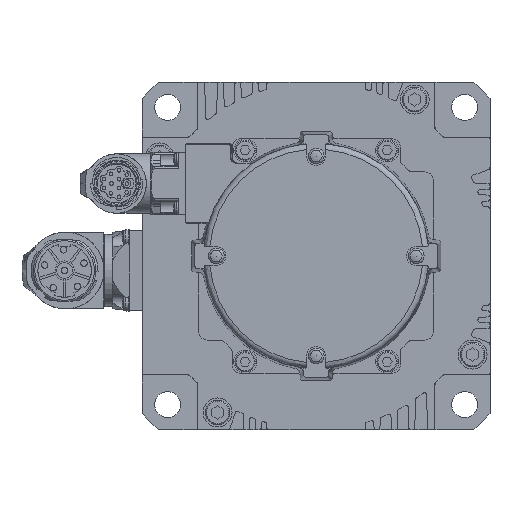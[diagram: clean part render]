
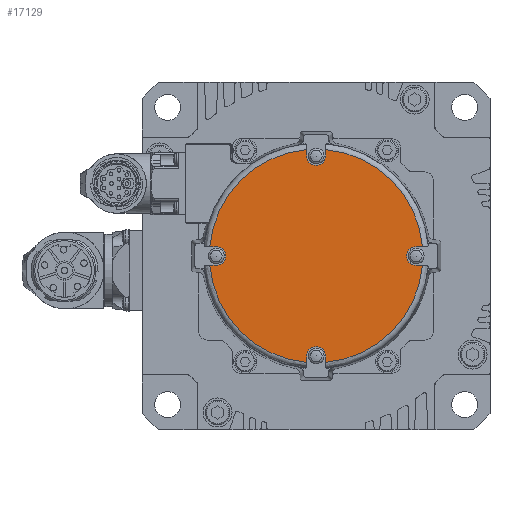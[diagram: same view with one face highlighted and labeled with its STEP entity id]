
A CAD part, left-side view. The second image highlights one B-rep face of the part: STEP entity #17129.
In plain terms, the highlighted planar face has unit normal (-1, 0, 0).
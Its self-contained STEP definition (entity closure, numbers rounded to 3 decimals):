
#729=LINE('',#25801,#2182);
#730=LINE('',#25805,#2183);
#731=LINE('',#25809,#2184);
#732=LINE('',#25813,#2185);
#733=LINE('',#25817,#2186);
#734=LINE('',#25821,#2187);
#735=LINE('',#25825,#2188);
#736=LINE('',#25829,#2189);
#2182=VECTOR('',#20240,1000.);
#2183=VECTOR('',#20243,1000.);
#2184=VECTOR('',#20246,1000.);
#2185=VECTOR('',#20249,1000.);
#2186=VECTOR('',#20252,1000.);
#2187=VECTOR('',#20255,1000.);
#2188=VECTOR('',#20258,1000.);
#2189=VECTOR('',#20261,1000.);
#3662=ORIENTED_EDGE('',*,*,#8856,.T.);
#3663=ORIENTED_EDGE('',*,*,#8857,.F.);
#3664=ORIENTED_EDGE('',*,*,#8858,.F.);
#3665=ORIENTED_EDGE('',*,*,#8859,.F.);
#3666=ORIENTED_EDGE('',*,*,#8860,.T.);
#3667=ORIENTED_EDGE('',*,*,#8861,.F.);
#3668=ORIENTED_EDGE('',*,*,#8862,.F.);
#3669=ORIENTED_EDGE('',*,*,#8863,.F.);
#3670=ORIENTED_EDGE('',*,*,#8864,.T.);
#3671=ORIENTED_EDGE('',*,*,#8865,.F.);
#3672=ORIENTED_EDGE('',*,*,#8866,.F.);
#3673=ORIENTED_EDGE('',*,*,#8867,.F.);
#3674=ORIENTED_EDGE('',*,*,#8868,.T.);
#3675=ORIENTED_EDGE('',*,*,#8869,.F.);
#3676=ORIENTED_EDGE('',*,*,#8870,.F.);
#3677=ORIENTED_EDGE('',*,*,#8871,.F.);
#8856=EDGE_CURVE('',#11453,#11454,#13206,.T.);
#8857=EDGE_CURVE('',#11455,#11454,#729,.T.);
#8858=EDGE_CURVE('',#11456,#11455,#13207,.T.);
#8859=EDGE_CURVE('',#11457,#11456,#730,.T.);
#8860=EDGE_CURVE('',#11457,#11458,#13208,.T.);
#8861=EDGE_CURVE('',#11459,#11458,#731,.T.);
#8862=EDGE_CURVE('',#11460,#11459,#13209,.T.);
#8863=EDGE_CURVE('',#11461,#11460,#732,.T.);
#8864=EDGE_CURVE('',#11461,#11462,#13210,.T.);
#8865=EDGE_CURVE('',#11463,#11462,#733,.T.);
#8866=EDGE_CURVE('',#11464,#11463,#13211,.T.);
#8867=EDGE_CURVE('',#11465,#11464,#734,.T.);
#8868=EDGE_CURVE('',#11465,#11466,#13212,.T.);
#8869=EDGE_CURVE('',#11467,#11466,#735,.T.);
#8870=EDGE_CURVE('',#11468,#11467,#13213,.T.);
#8871=EDGE_CURVE('',#11453,#11468,#736,.T.);
#11453=VERTEX_POINT('',#25799);
#11454=VERTEX_POINT('',#25800);
#11455=VERTEX_POINT('',#25802);
#11456=VERTEX_POINT('',#25804);
#11457=VERTEX_POINT('',#25806);
#11458=VERTEX_POINT('',#25808);
#11459=VERTEX_POINT('',#25810);
#11460=VERTEX_POINT('',#25812);
#11461=VERTEX_POINT('',#25814);
#11462=VERTEX_POINT('',#25816);
#11463=VERTEX_POINT('',#25818);
#11464=VERTEX_POINT('',#25820);
#11465=VERTEX_POINT('',#25822);
#11466=VERTEX_POINT('',#25824);
#11467=VERTEX_POINT('',#25826);
#11468=VERTEX_POINT('',#25828);
#13206=CIRCLE('',#18193,3.25);
#13207=CIRCLE('',#18194,36.85);
#13208=CIRCLE('',#18195,3.25);
#13209=CIRCLE('',#18196,36.85);
#13210=CIRCLE('',#18197,3.25);
#13211=CIRCLE('',#18198,36.85);
#13212=CIRCLE('',#18199,3.25);
#13213=CIRCLE('',#18200,36.85);
#14178=EDGE_LOOP('',(#3662,#3663,#3664,#3665,#3666,#3667,#3668,#3669,#3670,
#3671,#3672,#3673,#3674,#3675,#3676,#3677));
#15398=FACE_BOUND('',#14178,.T.);
#16612=PLANE('',#18192);
#17129=ADVANCED_FACE('',(#15398),#16612,.F.);
#18192=AXIS2_PLACEMENT_3D('',#25797,#20236,#20237);
#18193=AXIS2_PLACEMENT_3D('',#25798,#20238,#20239);
#18194=AXIS2_PLACEMENT_3D('',#25803,#20241,#20242);
#18195=AXIS2_PLACEMENT_3D('',#25807,#20244,#20245);
#18196=AXIS2_PLACEMENT_3D('',#25811,#20247,#20248);
#18197=AXIS2_PLACEMENT_3D('',#25815,#20250,#20251);
#18198=AXIS2_PLACEMENT_3D('',#25819,#20253,#20254);
#18199=AXIS2_PLACEMENT_3D('',#25823,#20256,#20257);
#18200=AXIS2_PLACEMENT_3D('',#25827,#20259,#20260);
#20236=DIRECTION('',(1.,0.,0.));
#20237=DIRECTION('',(0.,0.,-1.));
#20238=DIRECTION('',(1.,0.,0.));
#20239=DIRECTION('',(0.,0.,-1.));
#20240=DIRECTION('',(0.,-1.,0.));
#20241=DIRECTION('',(1.,0.,0.));
#20242=DIRECTION('',(0.,0.,-1.));
#20243=DIRECTION('',(0.,0.,-1.));
#20244=DIRECTION('',(1.,0.,0.));
#20245=DIRECTION('',(0.,0.,-1.));
#20246=DIRECTION('',(0.,0.,1.));
#20247=DIRECTION('',(1.,0.,0.));
#20248=DIRECTION('',(0.,0.,-1.));
#20249=DIRECTION('',(0.,-1.,0.));
#20250=DIRECTION('',(1.,0.,0.));
#20251=DIRECTION('',(0.,0.,-1.));
#20252=DIRECTION('',(0.,1.,0.));
#20253=DIRECTION('',(1.,0.,0.));
#20254=DIRECTION('',(0.,0.,-1.));
#20255=DIRECTION('',(0.,0.,1.));
#20256=DIRECTION('',(1.,0.,0.));
#20257=DIRECTION('',(0.,0.,-1.));
#20258=DIRECTION('',(0.,0.,-1.));
#20259=DIRECTION('',(1.,0.,0.));
#20260=DIRECTION('',(0.,0.,-1.));
#20261=DIRECTION('',(0.,1.,0.));
#25797=CARTESIAN_POINT('',(-188.,0.,0.));
#25798=CARTESIAN_POINT('',(-188.,34.5,0.));
#25799=CARTESIAN_POINT('',(-188.,34.5,3.25));
#25800=CARTESIAN_POINT('',(-188.,34.5,-3.25));
#25801=CARTESIAN_POINT('',(-188.,38.166,-3.25));
#25802=CARTESIAN_POINT('',(-188.,36.706,-3.25));
#25803=CARTESIAN_POINT('',(-188.,0.,0.));
#25804=CARTESIAN_POINT('',(-188.,3.25,-36.706));
#25805=CARTESIAN_POINT('',(-188.,3.25,-34.5));
#25806=CARTESIAN_POINT('',(-188.,3.25,-34.5));
#25807=CARTESIAN_POINT('',(-188.,0.,-34.5));
#25808=CARTESIAN_POINT('',(-188.,-3.25,-34.5));
#25809=CARTESIAN_POINT('',(-188.,-3.25,-38.166));
#25810=CARTESIAN_POINT('',(-188.,-3.25,-36.706));
#25811=CARTESIAN_POINT('',(-188.,0.,0.));
#25812=CARTESIAN_POINT('',(-188.,-36.706,-3.25));
#25813=CARTESIAN_POINT('',(-188.,-34.5,-3.25));
#25814=CARTESIAN_POINT('',(-188.,-34.5,-3.25));
#25815=CARTESIAN_POINT('',(-188.,-34.5,0.));
#25816=CARTESIAN_POINT('',(-188.,-34.5,3.25));
#25817=CARTESIAN_POINT('',(-188.,-38.166,3.25));
#25818=CARTESIAN_POINT('',(-188.,-36.706,3.25));
#25819=CARTESIAN_POINT('',(-188.,0.,0.));
#25820=CARTESIAN_POINT('',(-188.,-3.25,36.706));
#25821=CARTESIAN_POINT('',(-188.,-3.25,34.5));
#25822=CARTESIAN_POINT('',(-188.,-3.25,34.5));
#25823=CARTESIAN_POINT('',(-188.,0.,34.5));
#25824=CARTESIAN_POINT('',(-188.,3.25,34.5));
#25825=CARTESIAN_POINT('',(-188.,3.25,38.166));
#25826=CARTESIAN_POINT('',(-188.,3.25,36.706));
#25827=CARTESIAN_POINT('',(-188.,0.,0.));
#25828=CARTESIAN_POINT('',(-188.,36.706,3.25));
#25829=CARTESIAN_POINT('',(-188.,34.5,3.25));
